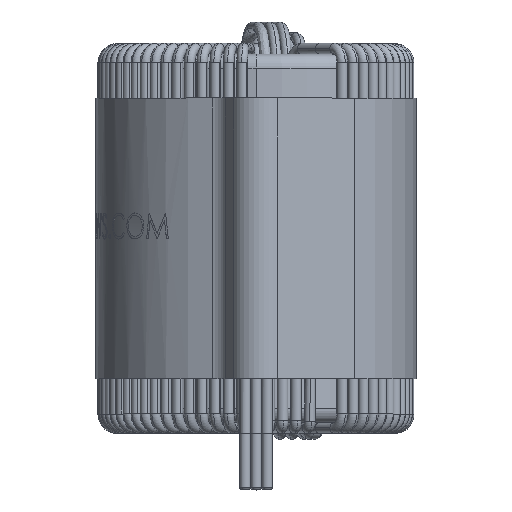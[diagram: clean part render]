
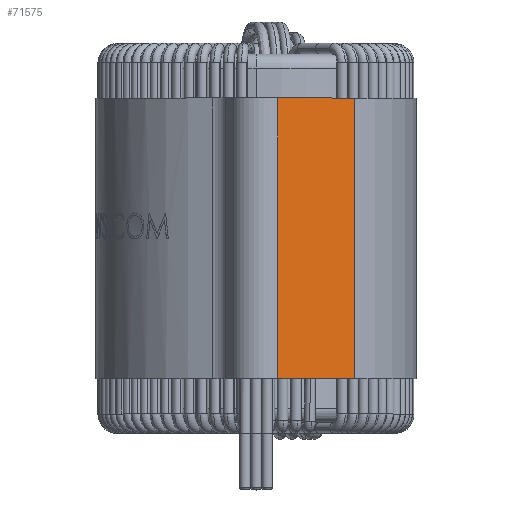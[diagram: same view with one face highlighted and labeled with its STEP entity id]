
A CAD part, top view. The second image highlights one B-rep face of the part: STEP entity #71575.
In plain terms, the highlighted planar face has unit normal (0.616, 0, 0.788) as drawn and (0.616, -0.788, 0) by its records, which use the part's own axes.
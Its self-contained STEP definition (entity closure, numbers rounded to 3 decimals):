
#219 = CARTESIAN_POINT ( 'NONE',  ( 31.715, -18.662, -30. ) ) ;
#319 = EDGE_CURVE ( 'NONE', #4479, #27943, #52210, .T. ) ;
#2992 = VECTOR ( 'NONE', #53997, 1000. ) ;
#4479 = VERTEX_POINT ( 'NONE', #17194 ) ;
#7273 = PLANE ( 'NONE',  #47642 ) ;
#7715 = VECTOR ( 'NONE', #14821, 1000. ) ;
#9963 = EDGE_CURVE ( 'NONE', #43859, #45334, #50828, .T. ) ;
#12918 = ORIENTED_EDGE ( 'NONE', *, *, #64254, .T. ) ;
#14821 = DIRECTION ( 'NONE',  ( 0.788, 0.616, 0. ) ) ;
#15146 = DIRECTION ( 'NONE',  ( -0.616, 0.788, 0. ) ) ;
#17194 = CARTESIAN_POINT ( 'NONE',  ( 4.62, -39.858, 30. ) ) ;
#22261 = ORIENTED_EDGE ( 'NONE', *, *, #82155, .F. ) ;
#27943 = VERTEX_POINT ( 'NONE', #43851 ) ;
#30321 = ORIENTED_EDGE ( 'NONE', *, *, #319, .T. ) ;
#40469 = CARTESIAN_POINT ( 'NONE',  ( 31.715, -18.662, 30. ) ) ;
#41489 = CARTESIAN_POINT ( 'NONE',  ( 21.097, -26.968, 30. ) ) ;
#43851 = CARTESIAN_POINT ( 'NONE',  ( 4.62, -39.858, -30. ) ) ;
#43859 = VERTEX_POINT ( 'NONE', #75744 ) ;
#45334 = VERTEX_POINT ( 'NONE', #78089 ) ;
#47642 = AXIS2_PLACEMENT_3D ( 'NONE', #65038, #15146, #79805 ) ;
#50828 = LINE ( 'NONE', #41489, #2992 ) ;
#52210 = LINE ( 'NONE', #54140, #75606 ) ;
#53862 = DIRECTION ( 'NONE',  ( 0., 0., -1. ) ) ;
#53997 = DIRECTION ( 'NONE',  ( 0., 0., -1. ) ) ;
#54140 = CARTESIAN_POINT ( 'NONE',  ( 4.62, -39.858, 30. ) ) ;
#60095 = LINE ( 'NONE', #219, #78478 ) ;
#64254 = EDGE_CURVE ( 'NONE', #27943, #45334, #60095, .T. ) ;
#65038 = CARTESIAN_POINT ( 'NONE',  ( 31.715, -18.662, 30. ) ) ;
#71221 = FACE_OUTER_BOUND ( 'NONE', #71368, .T. ) ;
#71368 = EDGE_LOOP ( 'NONE', ( #12918, #75175, #22261, #30321 ) ) ;
#71575 = ADVANCED_FACE ( 'NONE', ( #71221 ), #7273, .F. ) ;
#71836 = DIRECTION ( 'NONE',  ( 0.788, 0.616, 0. ) ) ;
#75175 = ORIENTED_EDGE ( 'NONE', *, *, #9963, .F. ) ;
#75606 = VECTOR ( 'NONE', #53862, 1000. ) ;
#75744 = CARTESIAN_POINT ( 'NONE',  ( 21.097, -26.968, 30. ) ) ;
#76953 = LINE ( 'NONE', #40469, #7715 ) ;
#78089 = CARTESIAN_POINT ( 'NONE',  ( 21.097, -26.968, -30. ) ) ;
#78478 = VECTOR ( 'NONE', #71836, 1000. ) ;
#79805 = DIRECTION ( 'NONE',  ( -0.788, -0.616, 0. ) ) ;
#82155 = EDGE_CURVE ( 'NONE', #4479, #43859, #76953, .T. ) ;
